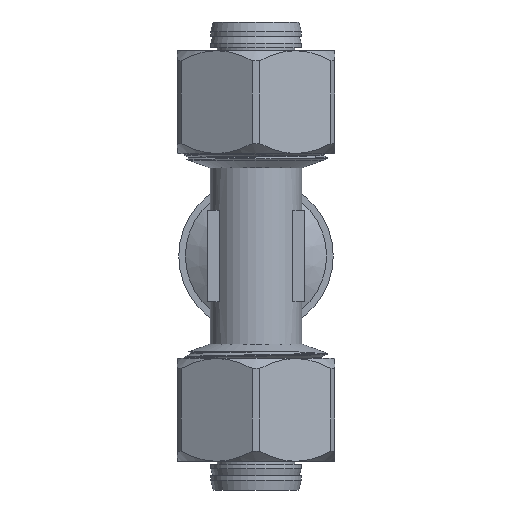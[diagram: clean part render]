
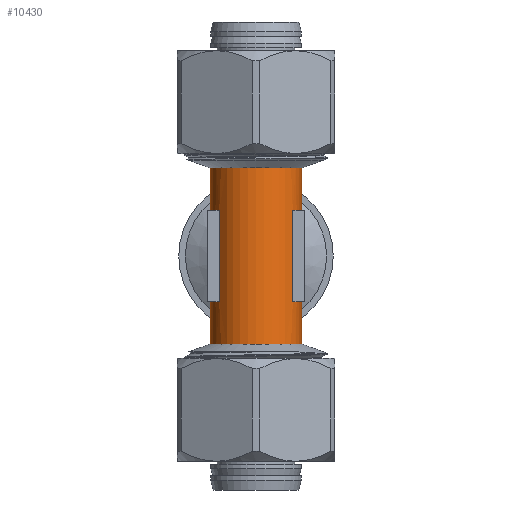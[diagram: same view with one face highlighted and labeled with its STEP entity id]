
A CAD part, front view. The second image highlights one B-rep face of the part: STEP entity #10430.
In plain terms, the highlighted cylindrical face has radius 8 mm (diameter 16 mm), a full revolution.
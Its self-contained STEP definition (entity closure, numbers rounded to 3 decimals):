
#114=ELLIPSE('',#11130,11.314,8.);
#115=ELLIPSE('',#11131,11.314,8.);
#116=ELLIPSE('',#11132,11.314,8.);
#117=ELLIPSE('',#11135,11.314,8.);
#1312=CYLINDRICAL_SURFACE('',#11179,8.);
#1489=FACE_OUTER_BOUND('',#2102,.T.);
#2102=EDGE_LOOP('',(#7450,#7451,#7452,#7453,#7454,#7455,#7456,#7457,#7458,
#7459,#7460,#7461,#7462,#7463,#7464,#7465,#7466,#7467,#7468,#7469,#7470,
#7471,#7472));
#2771=LINE('',#14036,#3426);
#2775=LINE('',#14045,#3430);
#2789=LINE('',#14081,#3444);
#2792=LINE('',#14087,#3447);
#2809=LINE('',#14129,#3464);
#2811=LINE('',#14134,#3466);
#2821=LINE('',#14242,#3476);
#2822=LINE('',#14243,#3477);
#3426=VECTOR('',#11904,10.);
#3430=VECTOR('',#11910,10.);
#3444=VECTOR('',#11942,10.);
#3447=VECTOR('',#11947,10.);
#3464=VECTOR('',#11986,10.);
#3466=VECTOR('',#11992,10.);
#3476=VECTOR('',#12124,8.);
#3477=VECTOR('',#12125,8.);
#3995=CIRCLE('',#11097,8.);
#3996=CIRCLE('',#11099,8.);
#3997=CIRCLE('',#11101,8.);
#3998=CIRCLE('',#11103,8.);
#4001=CIRCLE('',#11111,8.);
#4002=CIRCLE('',#11113,8.);
#4034=CIRCLE('',#11175,8.);
#4035=CIRCLE('',#11177,8.);
#4036=CIRCLE('',#11178,8.);
#4356=VERTEX_POINT('',#14034);
#4357=VERTEX_POINT('',#14035);
#4360=VERTEX_POINT('',#14043);
#4361=VERTEX_POINT('',#14044);
#4364=VERTEX_POINT('',#14052);
#4367=VERTEX_POINT('',#14060);
#4370=VERTEX_POINT('',#14068);
#4372=VERTEX_POINT('',#14074);
#4374=VERTEX_POINT('',#14080);
#4376=VERTEX_POINT('',#14086);
#4382=VERTEX_POINT('',#14104);
#4384=VERTEX_POINT('',#14110);
#4390=VERTEX_POINT('',#14128);
#4391=VERTEX_POINT('',#14133);
#4398=VERTEX_POINT('',#14154);
#4399=VERTEX_POINT('',#14157);
#4426=VERTEX_POINT('',#14234);
#4427=VERTEX_POINT('',#14237);
#4428=VERTEX_POINT('',#14238);
#5505=EDGE_CURVE('',#4356,#4357,#2771,.T.);
#5509=EDGE_CURVE('',#4360,#4361,#2775,.T.);
#5513=EDGE_CURVE('',#4361,#4364,#3995,.T.);
#5517=EDGE_CURVE('',#4367,#4356,#3996,.T.);
#5521=EDGE_CURVE('',#4370,#4360,#3997,.T.);
#5524=EDGE_CURVE('',#4357,#4372,#3998,.T.);
#5527=EDGE_CURVE('',#4374,#4370,#2789,.T.);
#5530=EDGE_CURVE('',#4372,#4376,#2792,.T.);
#5539=EDGE_CURVE('',#4382,#4374,#4001,.T.);
#5542=EDGE_CURVE('',#4376,#4384,#4002,.T.);
#5551=EDGE_CURVE('',#4390,#4382,#2809,.T.);
#5554=EDGE_CURVE('',#4384,#4391,#2811,.T.);
#5564=EDGE_CURVE('',#4398,#4390,#114,.T.);
#5565=EDGE_CURVE('',#4391,#4398,#115,.T.);
#5566=EDGE_CURVE('',#4399,#4367,#116,.T.);
#5570=EDGE_CURVE('',#4364,#4399,#117,.T.);
#5602=EDGE_CURVE('',#4426,#4426,#4034,.T.);
#5603=EDGE_CURVE('',#4427,#4428,#4035,.T.);
#5604=EDGE_CURVE('',#4428,#4427,#4036,.T.);
#5605=EDGE_CURVE('',#4426,#4399,#2821,.T.);
#5606=EDGE_CURVE('',#4398,#4428,#2822,.T.);
#7450=ORIENTED_EDGE('',*,*,#5602,.F.);
#7451=ORIENTED_EDGE('',*,*,#5605,.T.);
#7452=ORIENTED_EDGE('',*,*,#5566,.T.);
#7453=ORIENTED_EDGE('',*,*,#5517,.T.);
#7454=ORIENTED_EDGE('',*,*,#5505,.T.);
#7455=ORIENTED_EDGE('',*,*,#5524,.T.);
#7456=ORIENTED_EDGE('',*,*,#5530,.T.);
#7457=ORIENTED_EDGE('',*,*,#5542,.T.);
#7458=ORIENTED_EDGE('',*,*,#5554,.T.);
#7459=ORIENTED_EDGE('',*,*,#5565,.T.);
#7460=ORIENTED_EDGE('',*,*,#5606,.T.);
#7461=ORIENTED_EDGE('',*,*,#5604,.T.);
#7462=ORIENTED_EDGE('',*,*,#5603,.T.);
#7463=ORIENTED_EDGE('',*,*,#5606,.F.);
#7464=ORIENTED_EDGE('',*,*,#5564,.T.);
#7465=ORIENTED_EDGE('',*,*,#5551,.T.);
#7466=ORIENTED_EDGE('',*,*,#5539,.T.);
#7467=ORIENTED_EDGE('',*,*,#5527,.T.);
#7468=ORIENTED_EDGE('',*,*,#5521,.T.);
#7469=ORIENTED_EDGE('',*,*,#5509,.T.);
#7470=ORIENTED_EDGE('',*,*,#5513,.T.);
#7471=ORIENTED_EDGE('',*,*,#5570,.T.);
#7472=ORIENTED_EDGE('',*,*,#5605,.F.);
#10430=ADVANCED_FACE('',(#1489),#1312,.T.);
#11097=AXIS2_PLACEMENT_3D('',#14053,#11916,#11917);
#11099=AXIS2_PLACEMENT_3D('',#14061,#11923,#11924);
#11101=AXIS2_PLACEMENT_3D('',#14069,#11930,#11931);
#11103=AXIS2_PLACEMENT_3D('',#14075,#11936,#11937);
#11111=AXIS2_PLACEMENT_3D('',#14105,#11964,#11965);
#11113=AXIS2_PLACEMENT_3D('',#14111,#11970,#11971);
#11130=AXIS2_PLACEMENT_3D('',#14155,#12017,#12018);
#11131=AXIS2_PLACEMENT_3D('',#14156,#12019,#12020);
#11132=AXIS2_PLACEMENT_3D('',#14158,#12021,#12022);
#11135=AXIS2_PLACEMENT_3D('',#14164,#12028,#12029);
#11175=AXIS2_PLACEMENT_3D('',#14235,#12114,#12115);
#11177=AXIS2_PLACEMENT_3D('',#14239,#12118,#12119);
#11178=AXIS2_PLACEMENT_3D('',#14240,#12120,#12121);
#11179=AXIS2_PLACEMENT_3D('',#14241,#12122,#12123);
#11904=DIRECTION('',(0.,0.,-1.));
#11910=DIRECTION('',(0.,0.,1.));
#11916=DIRECTION('center_axis',(0.,0.,-1.));
#11917=DIRECTION('ref_axis',(0.,-1.,0.));
#11923=DIRECTION('center_axis',(0.,0.,-1.));
#11924=DIRECTION('ref_axis',(0.,-1.,0.));
#11930=DIRECTION('center_axis',(0.,0.,-1.));
#11931=DIRECTION('ref_axis',(0.,-1.,0.));
#11936=DIRECTION('center_axis',(0.,0.,-1.));
#11937=DIRECTION('ref_axis',(0.,-1.,0.));
#11942=DIRECTION('',(0.,0.,-1.));
#11947=DIRECTION('',(0.,0.,1.));
#11964=DIRECTION('center_axis',(0.,0.,1.));
#11965=DIRECTION('ref_axis',(0.,-1.,0.));
#11970=DIRECTION('center_axis',(0.,0.,1.));
#11971=DIRECTION('ref_axis',(0.,-1.,0.));
#11986=DIRECTION('',(0.,0.,1.));
#11992=DIRECTION('',(0.,0.,-1.));
#12017=DIRECTION('center_axis',(0.,-0.707,0.707));
#12018=DIRECTION('ref_axis',(0.,0.707,0.707));
#12019=DIRECTION('center_axis',(0.,-0.707,0.707));
#12020=DIRECTION('ref_axis',(0.,0.707,0.707));
#12021=DIRECTION('center_axis',(0.,-0.707,-0.707));
#12022=DIRECTION('ref_axis',(0.,-0.707,0.707));
#12028=DIRECTION('center_axis',(0.,-0.707,-0.707));
#12029=DIRECTION('ref_axis',(0.,-0.707,0.707));
#12114=DIRECTION('center_axis',(0.,0.,-1.));
#12115=DIRECTION('ref_axis',(1.,0.,0.));
#12118=DIRECTION('center_axis',(0.,0.,-1.));
#12119=DIRECTION('ref_axis',(1.,0.,0.));
#12120=DIRECTION('center_axis',(0.,0.,-1.));
#12121=DIRECTION('ref_axis',(1.,0.,0.));
#12122=DIRECTION('center_axis',(0.,0.,-1.));
#12123=DIRECTION('ref_axis',(0.,-1.,0.));
#12124=DIRECTION('',(0.,0.,1.));
#12125=DIRECTION('',(0.,0.,1.));
#14034=CARTESIAN_POINT('',(6.447,4.736,-4.772));
#14035=CARTESIAN_POINT('',(6.447,4.736,-8.022));
#14036=CARTESIAN_POINT('',(6.447,4.736,7.7));
#14043=CARTESIAN_POINT('',(-6.447,4.736,-8.022));
#14044=CARTESIAN_POINT('',(-6.447,4.736,-4.772));
#14045=CARTESIAN_POINT('',(-6.447,4.736,7.7));
#14052=CARTESIAN_POINT('',(-6.421,4.772,-4.772));
#14053=CARTESIAN_POINT('Origin',(0.,0.,-4.772));
#14060=CARTESIAN_POINT('',(6.421,4.772,-4.772));
#14061=CARTESIAN_POINT('Origin',(0.,0.,-4.772));
#14068=CARTESIAN_POINT('',(-6.427,-4.764,-8.022));
#14069=CARTESIAN_POINT('Origin',(0.,0.,-8.022));
#14074=CARTESIAN_POINT('',(6.427,-4.764,-8.022));
#14075=CARTESIAN_POINT('Origin',(0.,0.,-8.022));
#14080=CARTESIAN_POINT('',(-6.427,-4.764,7.978));
#14081=CARTESIAN_POINT('',(-6.427,-4.764,7.7));
#14086=CARTESIAN_POINT('',(6.427,-4.764,7.978));
#14087=CARTESIAN_POINT('',(6.427,-4.764,7.7));
#14104=CARTESIAN_POINT('',(-6.447,4.736,7.978));
#14105=CARTESIAN_POINT('Origin',(0.,0.,7.978));
#14110=CARTESIAN_POINT('',(6.447,4.736,7.978));
#14111=CARTESIAN_POINT('Origin',(0.,0.,7.978));
#14128=CARTESIAN_POINT('',(-6.447,4.736,4.736));
#14129=CARTESIAN_POINT('',(-6.447,4.736,7.7));
#14133=CARTESIAN_POINT('',(6.447,4.736,4.736));
#14134=CARTESIAN_POINT('',(6.447,4.736,7.7));
#14154=CARTESIAN_POINT('',(0.,8.,8.));
#14155=CARTESIAN_POINT('Origin',(0.,0.,0.));
#14156=CARTESIAN_POINT('Origin',(0.,0.,0.));
#14157=CARTESIAN_POINT('',(0.,8.,-8.));
#14158=CARTESIAN_POINT('Origin',(0.,0.,0.));
#14164=CARTESIAN_POINT('Origin',(0.,0.,0.));
#14234=CARTESIAN_POINT('',(0.,8.,-15.4));
#14235=CARTESIAN_POINT('Origin',(0.,0.,-15.4));
#14237=CARTESIAN_POINT('',(0.,-8.,15.4));
#14238=CARTESIAN_POINT('',(0.,8.,15.4));
#14239=CARTESIAN_POINT('Origin',(0.,0.,15.4));
#14240=CARTESIAN_POINT('Origin',(0.,0.,15.4));
#14241=CARTESIAN_POINT('Origin',(0.,0.,7.7));
#14242=CARTESIAN_POINT('',(0.,8.,7.7));
#14243=CARTESIAN_POINT('',(0.,8.,7.7));
